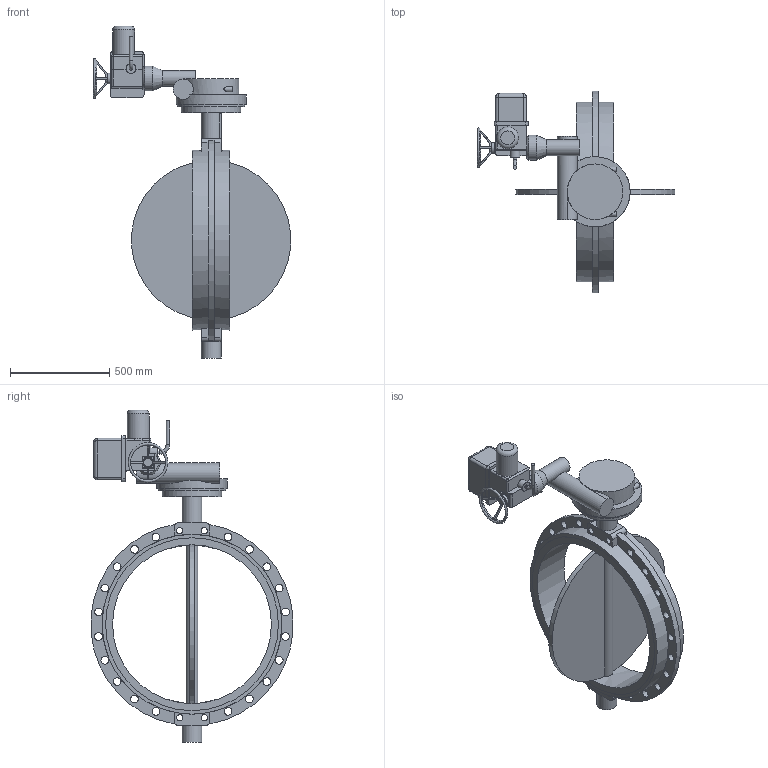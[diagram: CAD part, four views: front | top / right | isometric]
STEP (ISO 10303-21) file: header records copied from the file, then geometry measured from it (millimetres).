
FILE_DESCRIPTION(('STEP AP203'), '1');
FILE_NAME('Çàòâîð 017WDN800 ðåäóêòîð+ÝÏ ÌÒ903Ì.10', '', ('UNSPECIFIED'), ('UNSPECIFIED'), 'ASCON STEP Converter 1.6', 'ASCON Math Kernel', '');
FILE_SCHEMA(('CONFIG_CONTROL_DESIGN'));
Length unit declared in the file: millimetre
Bounding box: 992.47 x 1016.53 x 1671.5 mm (x, y, z)
Volume: 75415920.8 mm3; surface area: 3784703.7 mm2
Topology: 1 solids, 1 shells, 873 faces, 2446 edges, 1611 vertices
Faces by surface type: cylinder 610, plane 245, bspline 10, cone 4, torus 3, sphere 1
Full cylindrical faces by diameter (mm): 14 x8, 18 x10, 25 x2, 31.67 x4, 39 x20, 50 x1, 54 x1, 80 x1, 100 x3, 110 x1, 125 x1, 280 x1, 300 x1, 340 x1, 353 x1, 800 x1, 870 x2, 905 x2
Entity records: 38568 total; most frequent: CARTESIAN_POINT 8216, DIRECTION 5272, ORIENTED_EDGE 4738, EDGE_CURVE 2369, AXIS2_PLACEMENT_3D 2106, VERTEX_POINT 1609, CIRCLE 1243, LINE 1060
